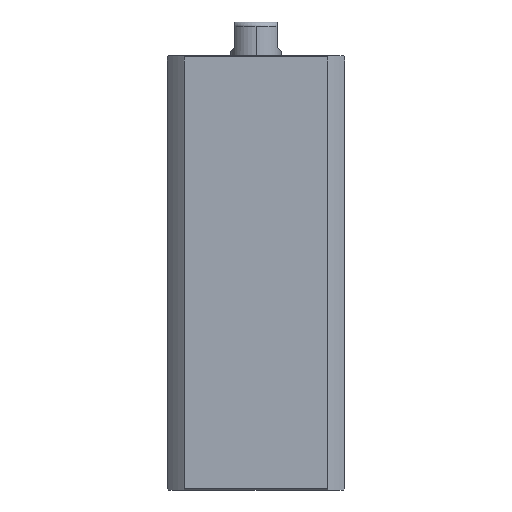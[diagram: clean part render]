
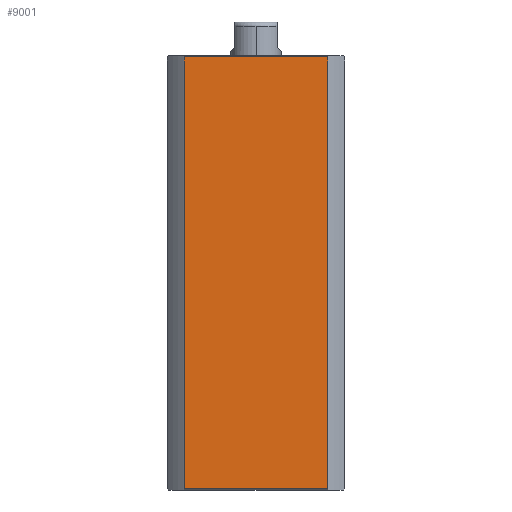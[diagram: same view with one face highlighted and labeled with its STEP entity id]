
A CAD part, left-side view. The second image highlights one B-rep face of the part: STEP entity #9001.
In plain terms, the highlighted planar face has unit normal (-1, 0, 0).
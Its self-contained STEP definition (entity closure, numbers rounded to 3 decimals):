
#346 = ORIENTED_EDGE ( 'NONE', *, *, #2105, .F. ) ;
#382 = DIRECTION ( 'NONE',  ( 0., 0., 1. ) ) ;
#416 = CARTESIAN_POINT ( 'NONE',  ( -21., 16.971, -47. ) ) ;
#1014 = LINE ( 'NONE', #11640, #5868 ) ;
#2074 = ORIENTED_EDGE ( 'NONE', *, *, #4012, .F. ) ;
#2105 = EDGE_CURVE ( 'NONE', #2333, #3606, #5975, .T. ) ;
#2333 = VERTEX_POINT ( 'NONE', #4647 ) ;
#2505 = DIRECTION ( 'NONE',  ( 0., -1., 0. ) ) ;
#2661 = DIRECTION ( 'NONE',  ( 0., 1., 0. ) ) ;
#2678 = VECTOR ( 'NONE', #4194, 1000. ) ;
#3453 = ORIENTED_EDGE ( 'NONE', *, *, #7513, .T. ) ;
#3606 = VERTEX_POINT ( 'NONE', #6396 ) ;
#3830 = VECTOR ( 'NONE', #382, 1000. ) ;
#4012 = EDGE_CURVE ( 'NONE', #9629, #8448, #9358, .T. ) ;
#4143 = AXIS2_PLACEMENT_3D ( 'NONE', #7982, #5292, #11535 ) ;
#4194 = DIRECTION ( 'NONE',  ( 0., 0., -1. ) ) ;
#4647 = CARTESIAN_POINT ( 'NONE',  ( -21., 16.971, 0.3 ) ) ;
#5292 = DIRECTION ( 'NONE',  ( 1., 0., 0. ) ) ;
#5662 = PLANE ( 'NONE',  #4143 ) ;
#5868 = VECTOR ( 'NONE', #2661, 1000. ) ;
#5975 = LINE ( 'NONE', #416, #3830 ) ;
#5986 = FACE_OUTER_BOUND ( 'NONE', #7031, .T. ) ;
#6396 = CARTESIAN_POINT ( 'NONE',  ( -21., 16.971, 102.7 ) ) ;
#6774 = ORIENTED_EDGE ( 'NONE', *, *, #10442, .T. ) ;
#7031 = EDGE_LOOP ( 'NONE', ( #346, #6774, #2074, #3453 ) ) ;
#7339 = CARTESIAN_POINT ( 'NONE',  ( -21., -16.971, 0.3 ) ) ;
#7513 = EDGE_CURVE ( 'NONE', #9629, #3606, #1014, .T. ) ;
#7889 = CARTESIAN_POINT ( 'NONE',  ( -21., -16.971, -47. ) ) ;
#7982 = CARTESIAN_POINT ( 'NONE',  ( -21., 21., 103. ) ) ;
#8448 = VERTEX_POINT ( 'NONE', #7339 ) ;
#8808 = CARTESIAN_POINT ( 'NONE',  ( -21., 21., 0.3 ) ) ;
#9001 = ADVANCED_FACE ( 'NONE', ( #5986 ), #5662, .F. ) ;
#9358 = LINE ( 'NONE', #7889, #2678 ) ;
#9629 = VERTEX_POINT ( 'NONE', #10745 ) ;
#10442 = EDGE_CURVE ( 'NONE', #2333, #8448, #11400, .T. ) ;
#10745 = CARTESIAN_POINT ( 'NONE',  ( -21., -16.971, 102.7 ) ) ;
#11138 = VECTOR ( 'NONE', #2505, 1000. ) ;
#11400 = LINE ( 'NONE', #8808, #11138 ) ;
#11535 = DIRECTION ( 'NONE',  ( 0., 1., 0. ) ) ;
#11640 = CARTESIAN_POINT ( 'NONE',  ( -21., 21., 102.7 ) ) ;
